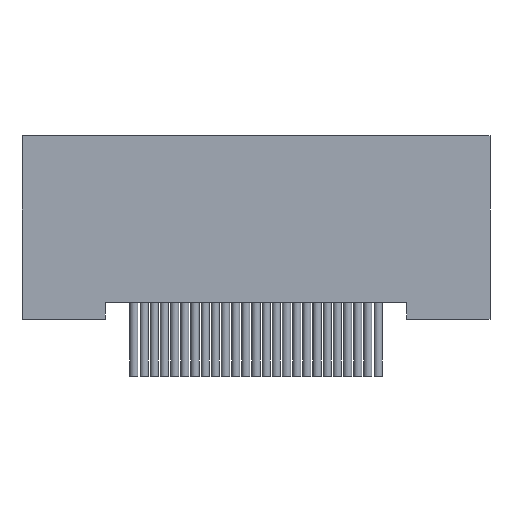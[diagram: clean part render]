
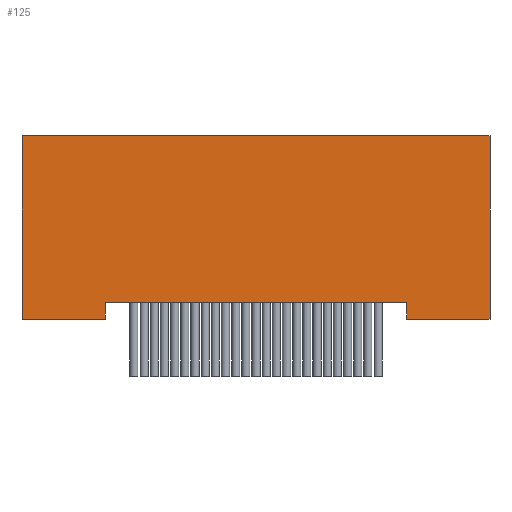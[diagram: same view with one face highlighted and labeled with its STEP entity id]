
A CAD part, front view. The second image highlights one B-rep face of the part: STEP entity #125.
In plain terms, the highlighted planar face has unit normal (0, -1, 0).
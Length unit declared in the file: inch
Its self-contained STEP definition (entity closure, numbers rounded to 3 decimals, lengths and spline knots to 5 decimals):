
#125 = ADVANCED_FACE ( 'NONE', ( #6926 ), #22333, .T. ) ;
#430 = VERTEX_POINT ( 'NONE', #8385 ) ;
#1449 = VERTEX_POINT ( 'NONE', #15997 ) ;
#1612 = CARTESIAN_POINT ( 'NONE',  ( 0.185, -0.0575, -0.205 ) ) ;
#1879 = ORIENTED_EDGE ( 'NONE', *, *, #11860, .T. ) ;
#2465 = LINE ( 'NONE', #1612, #22261 ) ;
#2755 = ORIENTED_EDGE ( 'NONE', *, *, #21916, .T. ) ;
#3080 = VECTOR ( 'NONE', #13357, 39.37008 ) ;
#3332 = CARTESIAN_POINT ( 'NONE',  ( -0.185, -0.0575, -0.225 ) ) ;
#3434 = VECTOR ( 'NONE', #9100, 39.37008 ) ;
#3670 = VERTEX_POINT ( 'NONE', #10740 ) ;
#3752 = CARTESIAN_POINT ( 'NONE',  ( -0.185, -0.0575, -0.205 ) ) ;
#4833 = CARTESIAN_POINT ( 'NONE',  ( -0.2875, -0.0575, 0. ) ) ;
#5233 = EDGE_CURVE ( 'NONE', #16563, #15196, #13617, .T. ) ;
#5747 = LINE ( 'NONE', #4833, #10271 ) ;
#6045 = CARTESIAN_POINT ( 'NONE',  ( 0.2875, -0.0575, 0. ) ) ;
#6310 = EDGE_LOOP ( 'NONE', ( #12594, #1879, #20106, #10887, #23272, #2755, #7985, #12467 ) ) ;
#6620 = VECTOR ( 'NONE', #12272, 39.37008 ) ;
#6926 = FACE_OUTER_BOUND ( 'NONE', #6310, .T. ) ;
#7985 = ORIENTED_EDGE ( 'NONE', *, *, #23522, .F. ) ;
#8178 = EDGE_CURVE ( 'NONE', #430, #1449, #16239, .T. ) ;
#8385 = CARTESIAN_POINT ( 'NONE',  ( -0.2875, -0.0575, -0.225 ) ) ;
#8527 = VECTOR ( 'NONE', #20821, 39.37008 ) ;
#8894 = CARTESIAN_POINT ( 'NONE',  ( -0.2875, -0.0575, -0.225 ) ) ;
#9100 = DIRECTION ( 'NONE',  ( -1., 0., 0. ) ) ;
#9893 = VERTEX_POINT ( 'NONE', #6045 ) ;
#10271 = VECTOR ( 'NONE', #18277, 39.37008 ) ;
#10740 = CARTESIAN_POINT ( 'NONE',  ( 0.185, -0.0575, -0.225 ) ) ;
#10800 = DIRECTION ( 'NONE',  ( 0., -1., 0. ) ) ;
#10887 = ORIENTED_EDGE ( 'NONE', *, *, #22212, .F. ) ;
#11167 = VECTOR ( 'NONE', #13556, 39.37008 ) ;
#11860 = EDGE_CURVE ( 'NONE', #3670, #14474, #18769, .T. ) ;
#12272 = DIRECTION ( 'NONE',  ( 0., 0., 1. ) ) ;
#12276 = VECTOR ( 'NONE', #24665, 39.37008 ) ;
#12467 = ORIENTED_EDGE ( 'NONE', *, *, #5233, .F. ) ;
#12594 = ORIENTED_EDGE ( 'NONE', *, *, #22912, .T. ) ;
#12883 = LINE ( 'NONE', #13122, #12276 ) ;
#13122 = CARTESIAN_POINT ( 'NONE',  ( -0.185, -0.0575, -0.205 ) ) ;
#13244 = LINE ( 'NONE', #19097, #3080 ) ;
#13357 = DIRECTION ( 'NONE',  ( 0., 0., 1. ) ) ;
#13556 = DIRECTION ( 'NONE',  ( 1., 0., 0. ) ) ;
#13617 = LINE ( 'NONE', #20615, #3434 ) ;
#14309 = CARTESIAN_POINT ( 'NONE',  ( -0.2875, -0.0575, -0.225 ) ) ;
#14474 = VERTEX_POINT ( 'NONE', #18371 ) ;
#15196 = VERTEX_POINT ( 'NONE', #3752 ) ;
#15997 = CARTESIAN_POINT ( 'NONE',  ( -0.2875, -0.0575, 0. ) ) ;
#16239 = LINE ( 'NONE', #14309, #6620 ) ;
#16296 = LINE ( 'NONE', #19287, #11167 ) ;
#16563 = VERTEX_POINT ( 'NONE', #21902 ) ;
#16913 = VERTEX_POINT ( 'NONE', #3332 ) ;
#16952 = DIRECTION ( 'NONE',  ( 0., 0., -1. ) ) ;
#18277 = DIRECTION ( 'NONE',  ( 1., 0., 0. ) ) ;
#18371 = CARTESIAN_POINT ( 'NONE',  ( 0.2875, -0.0575, -0.225 ) ) ;
#18769 = LINE ( 'NONE', #24586, #8527 ) ;
#19097 = CARTESIAN_POINT ( 'NONE',  ( 0.2875, -0.0575, -0.225 ) ) ;
#19287 = CARTESIAN_POINT ( 'NONE',  ( -0.2875, -0.0575, -0.225 ) ) ;
#20106 = ORIENTED_EDGE ( 'NONE', *, *, #22573, .T. ) ;
#20615 = CARTESIAN_POINT ( 'NONE',  ( 0.185, -0.0575, -0.205 ) ) ;
#20821 = DIRECTION ( 'NONE',  ( 1., 0., 0. ) ) ;
#21902 = CARTESIAN_POINT ( 'NONE',  ( 0.185, -0.0575, -0.205 ) ) ;
#21916 = EDGE_CURVE ( 'NONE', #430, #16913, #16296, .T. ) ;
#22212 = EDGE_CURVE ( 'NONE', #1449, #9893, #5747, .T. ) ;
#22261 = VECTOR ( 'NONE', #16952, 39.37008 ) ;
#22333 = PLANE ( 'NONE',  #23236 ) ;
#22573 = EDGE_CURVE ( 'NONE', #14474, #9893, #13244, .T. ) ;
#22912 = EDGE_CURVE ( 'NONE', #16563, #3670, #2465, .T. ) ;
#23236 = AXIS2_PLACEMENT_3D ( 'NONE', #8894, #10800, #24272 ) ;
#23272 = ORIENTED_EDGE ( 'NONE', *, *, #8178, .F. ) ;
#23522 = EDGE_CURVE ( 'NONE', #15196, #16913, #12883, .T. ) ;
#24272 = DIRECTION ( 'NONE',  ( 1., 0., 0. ) ) ;
#24586 = CARTESIAN_POINT ( 'NONE',  ( -0.2875, -0.0575, -0.225 ) ) ;
#24665 = DIRECTION ( 'NONE',  ( 0., 0., -1. ) ) ;
